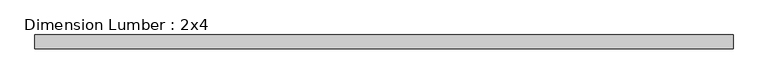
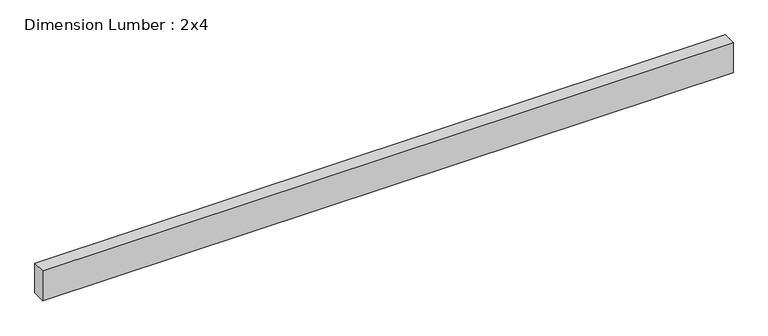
"""IFC4 building model written with IfcOpenShell, lengths in millimetres: beam geometry, Dimension Lumber : 2x4."""

from ifc_helpers import new_model, si_unit, frame, origin, place, context, project, spatial, polyline, outline, extrude, source, transform, mapped, element, save


def dimension_lumber_2x4_cdffd904(model_context):
    return source(origin(), model_context, "Body", "SweptSolid", [
        extrude(outline(polyline([(971.55, -19.05), (-971.55, -19.05), (-971.55, 19.05), (971.55, 19.05), (971.55, -19.05)])), frame((0.0, 0.0, -44.45), z_axis=(0.0, 0.0, 1.0), x_axis=(1.0, 0.0, 0.0)), (0.0, 0.0, 1.0), 88.9),
    ])


if __name__ == "__main__":
    model = new_model("IFC4")
    model_context = context("Model", 3, world=origin())
    ifc_project = project(units=[si_unit("LENGTHUNIT", "METRE", prefix="MILLI")], contexts=[model_context])
    site = spatial("IfcSite", under=ifc_project)
    building = spatial("IfcBuilding", under=site)
    placement = place(None, origin())
    dimension_lumber_2x4_shape = dimension_lumber_2x4_cdffd904(model_context)
    element("IfcBeam", 1, ObjectType="Dimension Lumber : 2x4", at=placement, inside=building, context=model_context, shape_type="MappedRepresentation", body=[
        mapped(dimension_lumber_2x4_shape, transform((0.0, 0.0, 0.0), x_axis=(1.0, 0.0, 0.0), y_axis=(0.0, 1.0, 0.0), z_axis=(0.0, 0.0, 1.0))),
    ])
    save(model, "model.ifc")
